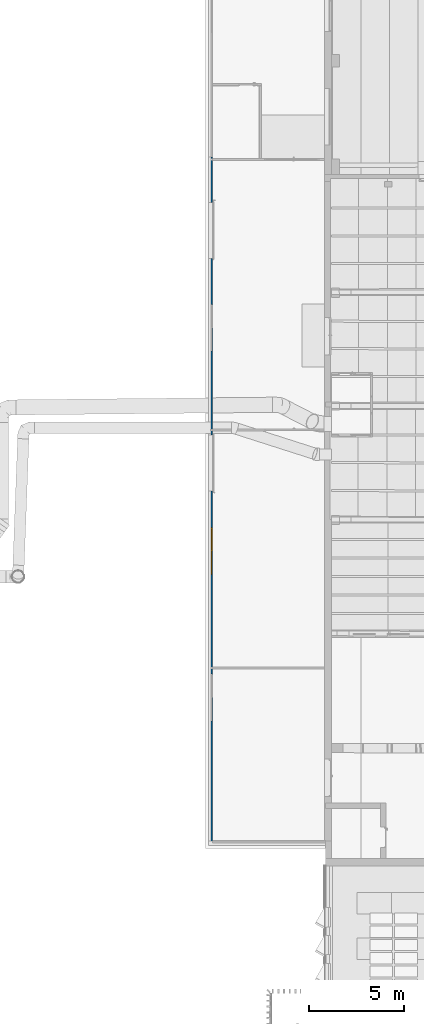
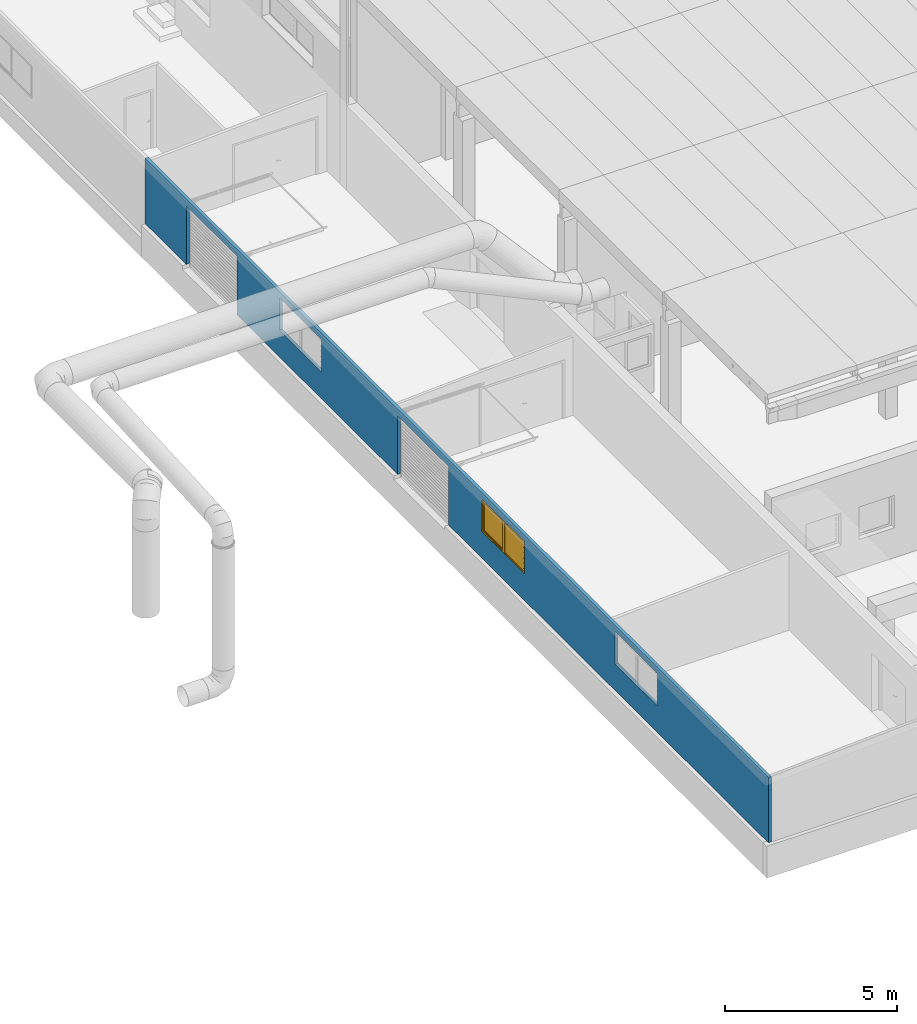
# One storey, part 87 of 301: 1 wall, 1 window, 5 openings.
"""IFC2X3 building model written with IfcOpenShell, lengths in millimetres."""

from ifc_helpers import new_model, entity, si_unit, converted_unit, derived_unit, money_unit, direction, frame, origin_with_axes, place, context, subcontext, project, spatial, open_shell, faceted_brep, surface_model, source, transform, mapped, material, type_object, element, fill, save


model = new_model("IFC2X3")

# Units and contexts
model_context = context("Model", 3, precision=0.01, world=origin_with_axes(), true_north=direction((0.0, 1.0)))
body_context = subcontext(model_context, "Body", "Model", "MODEL_VIEW")
ifc_project = project(units=[si_unit("LENGTHUNIT", "METRE", prefix="MILLI"), si_unit("AREAUNIT", "SQUARE_METRE"), si_unit("VOLUMEUNIT", "CUBIC_METRE"), converted_unit("PLANEANGLEUNIT", "DEGREE", entity("IfcPlaneAngleMeasure", 0.0174532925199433), si_unit("PLANEANGLEUNIT", "RADIAN"), dimensions=[0, 0, 0, 0, 0, 0, 0]), money_unit("EUR"), converted_unit("TIMEUNIT", "Year", entity("IfcTimeMeasure", 31557600.0), si_unit("TIMEUNIT", "SECOND"), dimensions=[0, 0, 1, 0, 0, 0, 0]), si_unit("MASSUNIT", "GRAM", prefix="KILO"), si_unit("THERMODYNAMICTEMPERATUREUNIT", "DEGREE_CELSIUS"), si_unit("LUMINOUSINTENSITYUNIT", "LUMEN"), si_unit("ENERGYUNIT", "JOULE", prefix="MEGA"), derived_unit("THERMALCONDUCTANCEUNIT", [(si_unit("POWERUNIT", "WATT"), 1), (si_unit("LENGTHUNIT", "METRE"), -1), (si_unit("THERMODYNAMICTEMPERATUREUNIT", "KELVIN"), -1)]), derived_unit("SPECIFICHEATCAPACITYUNIT", [(si_unit("ENERGYUNIT", "JOULE"), 1), (si_unit("MASSUNIT", "GRAM", prefix="KILO"), -1), (si_unit("THERMODYNAMICTEMPERATUREUNIT", "KELVIN"), -1)]), derived_unit("MASSDENSITYUNIT", [(si_unit("MASSUNIT", "GRAM", prefix="KILO"), 1), (si_unit("VOLUMEUNIT", "CUBIC_METRE"), -1)])], contexts=[model_context])

# Site, building, storey
site_placement = place(None, frame((0.0, 0.0, 8650.0), z_axis=(0.0, 0.0, 1.0), x_axis=(1.0, 0.0, 0.0)))
site = spatial("IfcSite", under=ifc_project, at=site_placement, Name="43301:001:0844", CompositionType="ELEMENT")
building_placement = place(site_placement, origin_with_axes())
building = spatial("IfcBuilding", under=site, at=building_placement, Name="Kuressaare Ametikooli tuulikute mehaanikute õppekorpus", CompositionType="ELEMENT")
storey_placement = place(building_placement, origin_with_axes())
storey = spatial("IfcBuildingStorey", under=building, at=storey_placement, Name="1.korrus", CompositionType="ELEMENT", Elevation=0.0)

# Wall, openings, window
ifc_material = material(Name="GENEERILINE - KONSTRUKTRIOON")
wall_type = type_object("IfcWallType", Name="GENEERILINE - KONSTRUKTRIOON 100", PredefinedType="NOTDEFINED")
wall_placement = place(storey_placement, frame((81891.83878898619, 63236.26327514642, 130.0), z_axis=(0.0, 0.0, 1.0), x_axis=(0.0, -1.0, 0.0)))
wall = element("IfcWall", 1, at=wall_placement, inside=storey, type_object=wall_type, material=ifc_material, Name="VS-XX", context=body_context, shape_type="Brep", body=[
    faceted_brep([(0.0, 0.0, 2324.239970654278), (0.0, 99.99999999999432, 2329.655717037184), (0.0, 99.99999999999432, 0.0), (0.0, 0.0, 0.0), (36237.35618591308, 99.99999999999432, 2320.415741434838), (36237.35618591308, 0.0, 2314.99999505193), (36237.35618591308, 99.99999999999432, 0.0), (17639.43948142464, 99.99999999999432, 0.0), (17639.43948142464, 99.99999999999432, 2080.0), (14679.43948142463, 99.99999999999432, 2080.0), (14679.43948142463, 99.99999999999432, 0.0), (5347.920379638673, 99.99999999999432, 0.0), (5347.920379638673, 99.99999999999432, 2080.0), (2387.920379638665, 99.99999999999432, 2080.0), (2387.920379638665, 99.99999999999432, 0.0), (19573.59649658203, 99.99999999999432, 950.0000000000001), (22053.59649658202, 99.99999999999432, 950.0000000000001), (22053.59649658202, 99.99999999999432, 2100.0), (19573.59649658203, 99.99999999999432, 2100.0), (7797.758178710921, 99.99999999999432, 2100.0), (7797.758178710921, 99.99999999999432, 950.0000000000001), (10247.75817871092, 99.99999999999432, 950.0000000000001), (10247.75817871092, 99.99999999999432, 2100.0), (29801.21437949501, 99.99999999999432, 2100.0), (27321.21437949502, 99.99999999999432, 2100.0), (27321.21437949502, 99.99999999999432, 950.0000000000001), (29801.21437949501, 99.99999999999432, 950.0000000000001), (2387.920379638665, 0.0, 0.0), (2387.920379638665, 0.0, 2080.0), (5347.920379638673, 0.0, 2080.0), (5347.920379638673, 0.0, 0.0), (14679.43948142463, 0.0, 0.0), (14679.43948142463, 0.0, 2080.0), (17639.43948142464, 0.0, 2080.0), (17639.43948142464, 0.0, 0.0), (36237.35618591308, 0.0, 0.0), (22053.59649658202, 0.0, 2100.0), (22053.59649658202, 0.0, 950.0000000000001), (19573.59649658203, 0.0, 950.0000000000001), (19573.59649658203, 0.0, 2100.0), (7797.758178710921, 0.0, 2100.0), (10247.75817871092, 0.0, 2100.0), (10247.75817871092, 0.0, 950.0000000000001), (7797.758178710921, 0.0, 950.0000000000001), (27321.21437949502, 0.0, 950.0000000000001), (27321.21437949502, 0.0, 2100.0), (29801.21437949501, 0.0, 2100.0), (29801.21437949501, 0.0, 950.0000000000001)], [[[0, 1, 2, 3]], [[4, 1, 0, 5]], [[1, 4, 6, 7, 8, 9, 10, 11, 12, 13, 14, 2], [15, 16, 17, 18], [19, 20, 21, 22], [23, 24, 25, 26]], [[14, 27, 3, 2]], [[5, 0, 3, 27, 28, 29, 30, 31, 32, 33, 34, 35], [36, 37, 38, 39], [40, 41, 42, 43], [44, 45, 46, 47]], [[4, 5, 35, 6]], [[35, 34, 7, 6]], [[33, 8, 7, 34]], [[32, 9, 8, 33]], [[31, 10, 9, 32]], [[11, 10, 31, 30]], [[12, 11, 30, 29]], [[13, 12, 29, 28]], [[14, 13, 28, 27]], [[37, 16, 15, 38]], [[36, 17, 16, 37]], [[39, 18, 17, 36]], [[38, 15, 18, 39]], [[40, 43, 20, 19]], [[43, 42, 21, 20]], [[42, 41, 22, 21]], [[41, 40, 19, 22]], [[23, 46, 45, 24]], [[24, 45, 44, 25]], [[25, 44, 47, 26]], [[26, 47, 46, 23]]]),
])
opening_1_placement = place(wall_placement, frame((20813.59649658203, 0.0, 949.9999999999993), z_axis=(0.0, 0.0, 1.0), x_axis=(1.0, 0.0, 0.0)))
opening_1 = element("IfcOpeningElement", 2, at=opening_1_placement, cuts=wall, Name="VA-XX", context=body_context, shape_type="Brep", body=[
    faceted_brep([(1239.999999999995, 100.9999999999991, 1150.0), (1239.999999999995, 100.9999999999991, 0.0), (-1239.999999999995, 100.9999999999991, 0.0), (-1239.999999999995, 100.9999999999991, 1150.0), (1239.999999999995, -1.000000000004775, 1150.0), (1239.999999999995, -1.000000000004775, 0.0), (-1239.999999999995, -1.000000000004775, 0.0), (-1239.999999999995, -1.000000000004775, 1150.0)], [[[0, 1, 2, 3]], [[4, 5, 1, 0]], [[5, 6, 2, 1]], [[6, 7, 3, 2]], [[7, 4, 0, 3]], [[6, 5, 4, 7]]]),
])
opening_2_placement = place(wall_placement, frame((9022.758178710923, 0.0, 949.9999999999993), z_axis=(0.0, 0.0, 1.0), x_axis=(1.0, 0.0, 0.0)))
element("IfcOpeningElement", 3, at=opening_2_placement, cuts=wall, Name="VA-XX", context=body_context, shape_type="Brep", body=[
    faceted_brep([(1225.000000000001, 100.9999999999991, 1150.0), (1225.000000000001, 100.9999999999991, 0.0), (-1225.000000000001, 100.9999999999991, 0.0), (-1225.000000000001, 100.9999999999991, 1150.0), (1225.000000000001, -1.000000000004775, 1150.0), (1225.000000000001, -1.000000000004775, 0.0), (-1225.000000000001, -1.000000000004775, 0.0), (-1225.000000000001, -1.000000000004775, 1150.0)], [[[0, 1, 2, 3]], [[4, 5, 1, 0]], [[5, 6, 2, 1]], [[6, 7, 3, 2]], [[7, 4, 0, 3]], [[6, 5, 4, 7]]]),
])
opening_3_placement = place(wall_placement, frame((28561.21437949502, 0.0, 949.9999999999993), z_axis=(0.0, 0.0, 1.0), x_axis=(1.0, 0.0, 0.0)))
element("IfcOpeningElement", 4, at=opening_3_placement, cuts=wall, Name="VA-XX", context=body_context, shape_type="Brep", body=[
    faceted_brep([(1239.999999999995, 100.9999999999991, 1150.0), (1239.999999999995, 100.9999999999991, 0.0), (-1239.999999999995, 100.9999999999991, 0.0), (-1239.999999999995, 100.9999999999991, 1150.0), (1239.999999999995, -1.000000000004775, 1150.0), (1239.999999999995, -1.000000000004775, 0.0), (-1239.999999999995, -1.000000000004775, 0.0), (-1239.999999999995, -1.000000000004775, 1150.0)], [[[0, 1, 2, 3]], [[4, 5, 1, 0]], [[5, 6, 2, 1]], [[6, 7, 3, 2]], [[7, 4, 0, 3]], [[6, 5, 4, 7]]]),
])
opening_4_placement = place(wall_placement, frame((3867.920379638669, 0.0, -130.0000000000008), z_axis=(0.0, 0.0, 1.0), x_axis=(1.0, 0.0, 0.0)))
element("IfcOpeningElement", 5, at=opening_4_placement, cuts=wall, context=body_context, shape_type="Brep", body=[
    faceted_brep([(1480.000000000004, 100.9999999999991, 2210.0), (1480.000000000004, 100.9999999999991, 0.0), (-1480.000000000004, 100.9999999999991, 0.0), (-1480.000000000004, 100.9999999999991, 2210.0), (1480.000000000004, -1.000000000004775, 2210.0), (1480.000000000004, -1.000000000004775, 0.0), (-1480.000000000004, -1.000000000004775, 0.0), (-1480.000000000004, -1.000000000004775, 2210.0)], [[[0, 1, 2, 3]], [[4, 5, 1, 0]], [[5, 6, 2, 1]], [[6, 7, 3, 2]], [[7, 4, 0, 3]], [[6, 5, 4, 7]]]),
])
opening_5_placement = place(wall_placement, frame((16159.43948142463, 0.0, -130.0000000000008), z_axis=(0.0, 0.0, 1.0), x_axis=(1.0, 0.0, 0.0)))
element("IfcOpeningElement", 6, at=opening_5_placement, cuts=wall, context=body_context, shape_type="Brep", body=[
    faceted_brep([(1480.000000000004, 100.9999999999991, 2210.0), (1480.000000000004, 100.9999999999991, 0.0), (-1480.000000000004, 100.9999999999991, 0.0), (-1480.000000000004, 100.9999999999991, 2210.0), (1480.000000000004, -1.000000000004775, 2210.0), (1480.000000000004, -1.000000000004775, 0.0), (-1480.000000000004, -1.000000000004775, 0.0), (-1480.000000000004, -1.000000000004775, 2210.0)], [[[0, 1, 2, 3]], [[4, 5, 1, 0]], [[5, 6, 2, 1]], [[6, 7, 3, 2]], [[7, 4, 0, 3]], [[6, 5, 4, 7]]]),
])
window_style = type_object("IfcWindowStyle", Name="Double Window 27", ConstructionType="NOTDEFINED", OperationType="DOUBLE_PANEL_VERTICAL", ParameterTakesPrecedence=False, Sizeable=False)
shared_shape = source(origin_with_axes(), body_context, "Body", "SurfaceModel", [
    faceted_brep([(-1214.999999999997, 0.0, 1100.0), (-1239.999999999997, 0.0, 1100.0), (-1239.999999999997, -50.00000000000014, 1100.0), (-1189.999999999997, -50.00000000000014, 1100.0), (-1189.999999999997, -25.00000000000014, 1100.0), (-1214.999999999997, -25.00000000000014, 1100.0), (-1214.999999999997, 0.0, 50.00000000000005), (-1239.999999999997, 0.0, 50.00000000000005), (-1239.999999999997, -50.00000000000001, 50.00000000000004), (-1189.999999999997, -50.00000000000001, 50.00000000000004), (-1189.999999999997, -25.00000000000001, 50.00000000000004), (-1214.999999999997, -25.00000000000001, 50.00000000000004)], [[[0, 1, 2, 3, 4, 5]], [[6, 7, 1, 0]], [[1, 7, 8, 2]], [[2, 8, 9, 3]], [[4, 3, 9, 10]], [[10, 11, 5, 4]], [[5, 11, 6, 0]], [[11, 10, 9, 8, 7, 6]]]),
    faceted_brep([(-25.00000000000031, -25.00000000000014, 1100.0), (-25.00000000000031, -50.00000000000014, 1100.0), (74.99999999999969, -50.00000000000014, 1100.0), (74.99999999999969, 0.0, 1100.0), (0.0, 0.0, 1100.0), (0.0, -25.00000000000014, 1100.0), (-25.00000000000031, -25.00000000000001, 50.00000000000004), (-25.00000000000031, -50.00000000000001, 50.00000000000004), (74.99999999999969, -50.00000000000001, 50.00000000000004), (74.99999999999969, 0.0, 50.00000000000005), (0.0, 0.0, 50.00000000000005), (0.0, -25.00000000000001, 50.00000000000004)], [[[0, 1, 2, 3, 4, 5]], [[6, 7, 1, 0]], [[8, 2, 1, 7]], [[9, 3, 2, 8]], [[4, 3, 9, 10]], [[10, 11, 5, 4]], [[5, 11, 6, 0]], [[11, 10, 9, 8, 7, 6]]]),
    faceted_brep([(-25.00000000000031, -25.00000000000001, 50.00000000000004), (-25.00000000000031, -50.00000000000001, 50.00000000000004), (74.99999999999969, -50.00000000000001, 50.00000000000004), (74.99999999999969, 0.0, 50.00000000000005), (0.0, 0.0, 50.00000000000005), (0.0, -25.00000000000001, 50.00000000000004), (-1189.999999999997, -25.00000000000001, 50.00000000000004), (-1189.999999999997, -50.00000000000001, 50.00000000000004), (-1239.999999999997, -50.00000000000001, 50.00000000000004), (-1239.999999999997, -50.0, 0.0), (1239.999999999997, -50.0, 0.0), (1239.999999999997, -50.00000000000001, 50.00000000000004), (1189.999999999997, -50.00000000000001, 50.00000000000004), (1189.999999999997, 0.0, 50.00000000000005), (-1214.999999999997, 0.0, 25.00000000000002), (0.0, 0.0, 25.00000000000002), (1239.999999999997, 0.0, 50.00000000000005), (1239.999999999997, 0.0, 0.0), (-1239.999999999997, 0.0, 0.0), (-1239.999999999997, 0.0, 50.00000000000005), (-1214.999999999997, 0.0, 50.00000000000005), (0.0, -25.0, 25.00000000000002), (-1214.999999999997, -25.0, 25.00000000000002), (-1214.999999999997, -25.00000000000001, 50.00000000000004)], [[[0, 1, 2, 3, 4, 5]], [[6, 7, 1, 0]], [[8, 9, 10, 11, 12, 2, 1, 7]], [[13, 3, 2, 12]], [[14, 15, 4, 3, 13, 16, 17, 18, 19, 20]], [[15, 21, 5, 4]], [[5, 21, 22, 23, 6, 0]], [[23, 20, 19, 8, 7, 6]], [[19, 18, 9, 8]], [[18, 17, 10, 9]], [[17, 16, 11, 10]], [[16, 13, 12, 11]], [[14, 22, 21, 15]], [[23, 22, 14, 20]]]),
    faceted_brep([(-1214.999999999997, 0.0, 1100.0), (-1239.999999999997, 0.0, 1100.0), (-1239.999999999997, 0.0, 1150.0), (1239.999999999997, 0.0, 1150.0), (1239.999999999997, 0.0, 1100.0), (1189.999999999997, 0.0, 1100.0), (74.99999999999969, 0.0, 1100.0), (0.0, 0.0, 1100.0), (0.0, 0.0, 1125.0), (-1214.999999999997, 0.0, 1125.0), (-1214.999999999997, -25.00000000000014, 1100.0), (-1189.999999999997, -25.00000000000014, 1100.0), (-1189.999999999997, -50.00000000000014, 1100.0), (-1239.999999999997, -50.00000000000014, 1100.0), (-1239.999999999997, -50.00000000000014, 1150.0), (1239.999999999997, -50.00000000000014, 1150.0), (1239.999999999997, -50.00000000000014, 1100.0), (1189.999999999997, -50.00000000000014, 1100.0), (74.99999999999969, -50.00000000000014, 1100.0), (0.0, -25.00000000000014, 1100.0), (-25.00000000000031, -50.00000000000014, 1100.0), (-25.00000000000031, -25.00000000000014, 1100.0), (0.0, -25.00000000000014, 1125.0), (-1214.999999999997, -25.00000000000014, 1125.0)], [[[0, 1, 2, 3, 4, 5, 6, 7, 8, 9]], [[10, 11, 12, 13, 1, 0]], [[2, 1, 13, 14]], [[3, 2, 14, 15]], [[4, 3, 15, 16]], [[5, 4, 16, 17]], [[6, 5, 17, 18]], [[19, 7, 6, 18, 20, 21]], [[7, 19, 22, 8]], [[8, 22, 23, 9]], [[9, 23, 10, 0]], [[21, 11, 10, 23, 22, 19]], [[21, 20, 12, 11]], [[18, 17, 16, 15, 14, 13, 12, 20]]]),
    faceted_brep([(1189.999999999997, -50.00000000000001, 50.0), (1189.999999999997, 0.0, 50.00000000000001), (1239.999999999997, 0.0, 50.00000000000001), (1239.999999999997, -50.00000000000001, 50.0), (1189.999999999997, -50.00000000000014, 1100.0), (1189.999999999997, 0.0, 1100.0), (1239.999999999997, 0.0, 1100.0), (1239.999999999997, -50.00000000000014, 1100.0)], [[[0, 1, 2, 3]], [[4, 5, 1, 0]], [[1, 5, 6, 2]], [[3, 2, 6, 7]], [[0, 3, 7, 4]], [[7, 6, 5, 4]]]),
    faceted_brep([(-1205.999999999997, 24.99999999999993, 602.0), (-1204.660254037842, 24.99999999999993, 607.0), (-1204.660254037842, 36.99999999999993, 607.0), (-1205.999999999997, 36.99999999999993, 602.0), (-1205.999999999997, 24.99999999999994, 547.9999999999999), (-1204.660254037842, 24.99999999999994, 542.9999999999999), (-1200.999999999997, 24.99999999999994, 539.3397459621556), (-1195.999999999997, 24.99999999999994, 537.9999999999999), (-1183.999999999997, 24.99999999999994, 537.9999999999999), (-1178.999999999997, 24.99999999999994, 539.3397459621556), (-1175.339745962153, 24.99999999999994, 542.9999999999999), (-1173.999999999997, 24.99999999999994, 547.9999999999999), (-1173.999999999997, 24.99999999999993, 602.0), (-1175.339745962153, 24.99999999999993, 607.0), (-1178.999999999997, 24.99999999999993, 610.6602540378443), (-1183.999999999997, 24.99999999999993, 612.0), (-1195.999999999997, 24.99999999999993, 612.0), (-1200.999999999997, 24.99999999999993, 610.6602540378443), (-1200.999999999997, 36.99999999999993, 610.6602540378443), (-1195.999999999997, 36.99999999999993, 612.0), (-1183.999999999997, 36.99999999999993, 612.0), (-1178.999999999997, 36.99999999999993, 610.6602540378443), (-1175.339745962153, 36.99999999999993, 607.0), (-1173.999999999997, 36.99999999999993, 602.0), (-1173.999999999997, 36.99999999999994, 547.9999999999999), (-1175.339745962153, 36.99999999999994, 542.9999999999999), (-1178.999999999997, 36.99999999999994, 539.3397459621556), (-1183.999999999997, 36.99999999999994, 537.9999999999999), (-1195.999999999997, 36.99999999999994, 537.9999999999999), (-1200.999999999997, 36.99999999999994, 539.3397459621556), (-1204.660254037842, 36.99999999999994, 542.9999999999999), (-1205.999999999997, 36.99999999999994, 547.9999999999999)], [[[0, 1, 2, 3]], [[0, 4, 5, 6, 7, 8, 9, 10, 11, 12, 13, 14, 15, 16, 17, 1]], [[1, 17, 18, 2]], [[3, 2, 18, 19, 20, 21, 22, 23, 24, 25, 26, 27, 28, 29, 30, 31]], [[4, 0, 3, 31]], [[5, 4, 31, 30]], [[6, 5, 30, 29]], [[7, 6, 29, 28]], [[8, 7, 28, 27]], [[9, 8, 27, 26]], [[10, 9, 26, 25]], [[11, 10, 25, 24]], [[12, 11, 24, 23]], [[13, 12, 23, 22]], [[14, 13, 22, 21]], [[15, 14, 21, 20]], [[16, 15, 20, 19]], [[17, 16, 19, 18]]]),
    faceted_brep([(-1189.999999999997, 36.99999999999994, 588.4999999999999), (-1183.249999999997, 36.99999999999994, 586.6913429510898), (-1183.249999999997, 60.99999999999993, 586.69134295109), (-1189.999999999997, 60.99999999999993, 588.4999999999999), (-1196.749999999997, 36.99999999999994, 586.6913429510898), (-1201.691342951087, 36.99999999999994, 581.75), (-1203.499999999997, 36.99999999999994, 575.0), (-1201.691342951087, 36.99999999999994, 568.2499999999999), (-1196.749999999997, 36.99999999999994, 563.3086570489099), (-1189.999999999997, 36.99999999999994, 561.5), (-1183.249999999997, 36.99999999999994, 563.30865704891), (-1178.308657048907, 36.99999999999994, 568.2499999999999), (-1176.499999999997, 36.99999999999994, 575.0), (-1178.308657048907, 36.99999999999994, 581.75), (-1178.308657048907, 60.99999999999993, 581.75), (-1176.499999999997, 60.99999999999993, 575.0), (-1178.308657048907, 60.99999999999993, 568.2499999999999), (-1183.249999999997, 60.99999999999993, 563.30865704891), (-1189.999999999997, 60.99999999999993, 561.5), (-1196.749999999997, 60.99999999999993, 563.30865704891), (-1201.691342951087, 60.99999999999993, 568.2499999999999), (-1203.499999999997, 60.99999999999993, 575.0), (-1201.691342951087, 60.99999999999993, 581.75), (-1196.749999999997, 60.99999999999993, 586.6913429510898)], [[[0, 1, 2, 3]], [[0, 4, 5, 6, 7, 8, 9, 10, 11, 12, 13, 1]], [[1, 13, 14, 2]], [[3, 2, 14, 15, 16, 17, 18, 19, 20, 21, 22, 23]], [[4, 0, 3, 23]], [[5, 4, 23, 22]], [[6, 5, 22, 21]], [[7, 6, 21, 20]], [[8, 7, 20, 19]], [[9, 8, 19, 18]], [[10, 9, 18, 17]], [[11, 10, 17, 16]], [[12, 11, 16, 15]], [[13, 12, 15, 14]]]),
    faceted_brep([(-1201.499999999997, 60.99999999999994, 468.0), (-1189.999999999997, 60.99999999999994, 464.9999999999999), (-1178.499999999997, 60.99999999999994, 468.0), (-1176.499999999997, 60.99999999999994, 471.0), (-1176.499999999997, 60.99999999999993, 575.0), (-1178.308657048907, 60.99999999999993, 581.75), (-1183.249999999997, 60.99999999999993, 586.69134295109), (-1189.999999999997, 60.99999999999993, 588.4999999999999), (-1196.749999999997, 60.99999999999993, 586.6913429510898), (-1201.691342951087, 60.99999999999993, 581.75), (-1203.499999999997, 60.99999999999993, 575.0), (-1203.499999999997, 60.99999999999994, 471.0), (-1201.500000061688, 68.99999999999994, 468.0000001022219), (-1190.000000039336, 68.99999999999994, 464.9999996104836), (-1178.500000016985, 68.99999999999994, 468.0000001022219), (-1176.499999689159, 68.99999999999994, 470.9999996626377), (-1176.499999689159, 68.99999999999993, 574.9999999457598), (-1178.308657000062, 68.99999999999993, 581.7499996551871), (-1183.250000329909, 68.99999999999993, 586.691342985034), (-1190.000000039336, 68.99999999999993, 588.5000002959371), (-1196.749999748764, 68.99999999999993, 586.691342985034), (-1201.691343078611, 68.99999999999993, 581.7499996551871), (-1203.500000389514, 68.99999999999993, 574.9999999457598), (-1203.500000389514, 68.99999999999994, 470.9999996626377), (-1199.637462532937, 71.99999956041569, 470.6145196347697), (-1190.000000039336, 71.99999956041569, 468.1003985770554), (-1180.362537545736, 71.99999956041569, 470.6145196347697), (-1179.499999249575, 71.99999956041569, 471.9083266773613), (-1179.499999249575, 71.99999956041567, 574.6050424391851), (-1180.998382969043, 71.99999956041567, 580.197085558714), (-1184.802914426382, 71.99999956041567, 584.001617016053), (-1190.000000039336, 71.99999956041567, 585.3941721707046), (-1195.197085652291, 71.99999956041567, 584.001617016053), (-1199.00161710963, 71.99999956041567, 580.197085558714), (-1200.500000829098, 71.99999956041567, 574.6050424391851), (-1200.500000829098, 71.99999956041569, 471.9083266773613)], [[[0, 1, 2, 3, 4, 5, 6, 7, 8, 9, 10, 11]], [[1, 0, 12, 13]], [[2, 1, 13, 14]], [[3, 2, 14, 15]], [[4, 3, 15, 16]], [[5, 4, 16, 17]], [[6, 5, 17, 18]], [[7, 6, 18, 19]], [[8, 7, 19, 20]], [[9, 8, 20, 21]], [[10, 9, 21, 22]], [[11, 10, 22, 23]], [[0, 11, 23, 12]], [[13, 12, 24, 25]], [[14, 13, 25, 26]], [[15, 14, 26, 27]], [[16, 15, 27, 28]], [[17, 16, 28, 29]], [[18, 17, 29, 30]], [[19, 18, 30, 31]], [[20, 19, 31, 32]], [[21, 20, 32, 33]], [[22, 21, 33, 34]], [[23, 22, 34, 35]], [[12, 23, 35, 24]], [[26, 25, 24, 35, 34, 33, 32, 31, 30, 29, 28, 27]]]),
    faceted_brep([(-1164.999999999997, -25.0000000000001, 1075.0), (-1164.999999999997, 24.9999999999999, 1075.0), (-1214.999999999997, 24.9999999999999, 1075.0), (-1214.999999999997, -25.00000000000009, 1075.0), (-1164.999999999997, -24.99999999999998, 75.00000000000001), (-1164.999999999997, 25.00000000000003, 75.00000000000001), (-1214.999999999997, 25.00000000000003, 75.00000000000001), (-1214.999999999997, -24.99999999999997, 75.00000000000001)], [[[0, 1, 2, 3]], [[4, 5, 1, 0]], [[1, 5, 6, 2]], [[3, 2, 6, 7]], [[0, 3, 7, 4]], [[7, 6, 5, 4]]]),
    faceted_brep([(-50.00000000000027, -25.00000000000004, 75.00000000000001), (-50.00000000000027, 24.99999999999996, 75.00000000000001), (0.0, 24.99999999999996, 75.00000000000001), (0.0, -25.00000000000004, 75.00000000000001), (-50.00000000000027, -25.00000000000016, 1075.0), (-50.00000000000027, 24.99999999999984, 1075.0), (0.0, 24.99999999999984, 1075.0), (0.0, -25.00000000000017, 1075.0)], [[[0, 1, 2, 3]], [[4, 5, 1, 0]], [[1, 5, 6, 2]], [[3, 2, 6, 7]], [[0, 3, 7, 4]], [[7, 6, 5, 4]]]),
    faceted_brep([(0.0, -25.00000000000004, 25.0), (0.0, 24.99999999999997, 25.00000000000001), (0.0, 24.99999999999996, 75.00000000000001), (0.0, -25.00000000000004, 75.00000000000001), (-1214.999999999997, -24.99999999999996, 25.0), (-1214.999999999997, 25.00000000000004, 25.00000000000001), (-1214.999999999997, 25.00000000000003, 75.00000000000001), (-1164.999999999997, 25.00000000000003, 75.00000000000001), (-50.00000000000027, 24.99999999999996, 75.00000000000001), (-50.00000000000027, -25.00000000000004, 75.00000000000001), (-1164.999999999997, -24.99999999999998, 75.00000000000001), (-1214.999999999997, -24.99999999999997, 75.00000000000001)], [[[0, 1, 2, 3]], [[4, 5, 1, 0]], [[1, 5, 6, 7, 8, 2]], [[3, 2, 8, 9]], [[0, 3, 9, 10, 11, 4]], [[11, 6, 5, 4]], [[10, 7, 6, 11]], [[9, 8, 7, 10]]]),
    faceted_brep([(-1214.999999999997, -25.0000000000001, 1125.0), (-1214.999999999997, 24.9999999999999, 1125.0), (-1214.999999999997, 24.9999999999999, 1075.0), (-1214.999999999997, -25.00000000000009, 1075.0), (0.0, -25.00000000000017, 1125.0), (0.0, 24.99999999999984, 1125.0), (0.0, 24.99999999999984, 1075.0), (-50.00000000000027, 24.99999999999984, 1075.0), (-1164.999999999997, 24.9999999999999, 1075.0), (-1164.999999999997, -25.0000000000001, 1075.0), (-50.00000000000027, -25.00000000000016, 1075.0), (0.0, -25.00000000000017, 1075.0)], [[[0, 1, 2, 3]], [[4, 5, 1, 0]], [[1, 5, 6, 7, 8, 2]], [[3, 2, 8, 9]], [[0, 3, 9, 10, 11, 4]], [[11, 6, 5, 4]], [[10, 7, 6, 11]], [[9, 8, 7, 10]]]),
    surface_model("IfcShellBasedSurfaceModel", [(-1164.999999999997, -10.00000000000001, 75.00000000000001), (-50.00000000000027, -10.00000000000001, 75.00000000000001), (-50.00000000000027, -10.00000000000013, 1075.0), (-1164.999999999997, -10.00000000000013, 1075.0)], [open_shell([[[0, 1, 2, 3]]])]),
    surface_model("IfcShellBasedSurfaceModel", [(-1164.999999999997, 9.999999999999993, 75.00000000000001), (-1164.999999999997, 9.999999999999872, 1075.0), (-50.00000000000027, 9.999999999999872, 1075.0), (-50.00000000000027, 9.999999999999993, 75.00000000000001)], [open_shell([[[0, 1, 2, 3]]])]),
    surface_model("IfcShellBasedSurfaceModel", [(74.99999999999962, -35.0, 49.99999999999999), (1189.999999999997, -35.0, 49.99999999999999), (1189.999999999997, -35.00000000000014, 1100.0), (74.99999999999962, -35.00000000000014, 1100.0)], [open_shell([[[0, 1, 2, 3]]])]),
    surface_model("IfcShellBasedSurfaceModel", [(74.99999999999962, -15.0, 49.99999999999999), (74.99999999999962, -15.00000000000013, 1100.0), (1189.999999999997, -15.00000000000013, 1100.0), (1189.999999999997, -15.0, 49.99999999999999)], [open_shell([[[0, 1, 2, 3]]])]),
])
window_placement = place(opening_1_placement, frame((-1239.999999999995, 0.0, 0.0), z_axis=(0.0, 0.0, 1.0), x_axis=(1.0, 0.0, 0.0)))
window = element("IfcWindow", 7, at=window_placement, inside=storey, type_object=window_style, Name="VA-XX", OverallHeight=1150.0, OverallWidth=2480.0, context=body_context, shape_type="MappedRepresentation", body=[
    mapped(shared_shape, transform((1239.999999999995, 49.99999999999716, 0.0))),
])
fill(opening_1, window)

save(model, "model.ifc")
